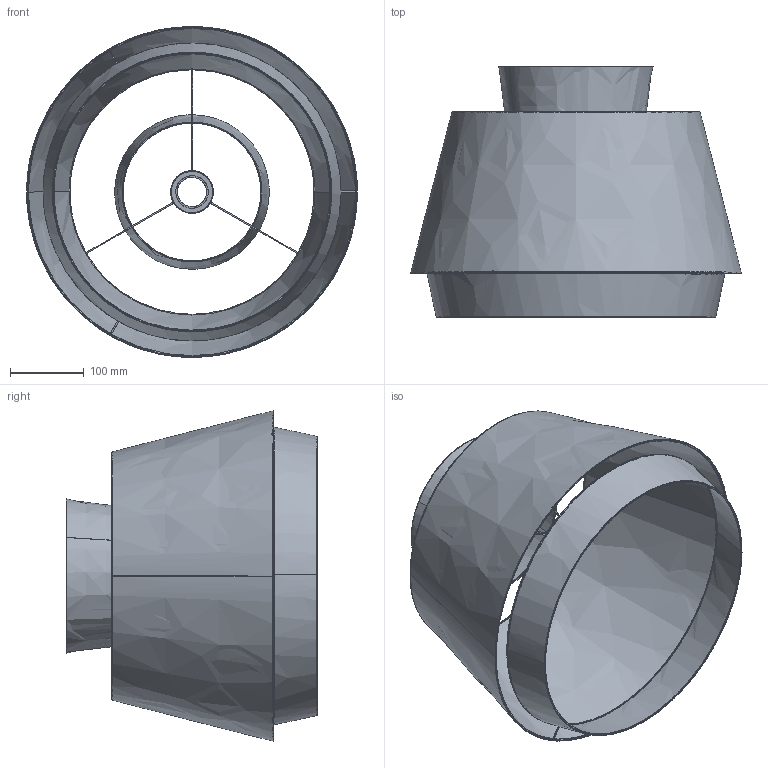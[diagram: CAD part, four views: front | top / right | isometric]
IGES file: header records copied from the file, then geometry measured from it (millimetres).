
Start section: SolidWorks IGES file using analytic representation for surfaces
Global section: file name: C:\Users\a.sempere\Desktop\PANTALLAS\ASPEN\5PANT39164.IGS; native system: SolidWorks 2024; preprocessor: SolidWorks 2024; author: a.sempere; date: 250120.084203; units: millimetre
Bounding box: 450 x 341.47 x 450 mm (x, y, z)
Surface area: 847492.5 mm2 (no closed solid volume)
Topology: 0 solids, 0 shells, 177 faces, 4640 edges, 4640 vertices
Faces by surface type: bspline 177
